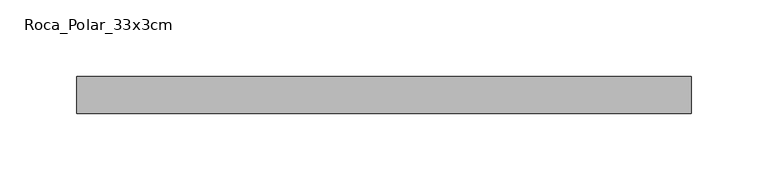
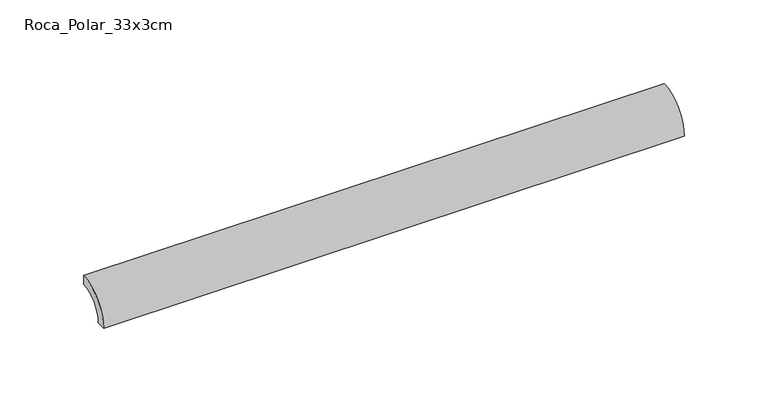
"""IFC4 building model written with IfcOpenShell, lengths in millimetres: proxy geometry, EXAGRES - Piscina Arista : Roca_Polar_33x3cm."""

from ifc_helpers import new_model, si_unit, point, frame, frame_2d, origin, place, context, project, spatial, polyline, circle_curve, trimmed, segment, composite_curve, outline, extrude, source, transform, mapped, element, save


def roca_polar_33x3cm_006be5aa(model_context):
    return source(origin(), model_context, "Body", "SweptSolid", [
        extrude(outline(composite_curve([segment(trimmed(circle_curve(frame_2d((23.9, -23.9)), 23.9), [point((0.0, -23.9))], [point((23.9, 0.0))], False, "CARTESIAN"), True, "CONTINUOUS"), segment(polyline([(23.9, 0.0), (23.9, -6.4)]), True, "CONTINUOUS"), segment(trimmed(circle_curve(frame_2d((23.9, -23.9)), 17.5), [point((23.9, -6.4))], [point((6.4, -23.9))], True, "CARTESIAN"), True, "CONTINUOUS"), segment(polyline([(6.4, -23.9), (0.0, -23.9)]), True, "CONTINUOUS")], self_intersect=False)), frame((0.0, 0.0, 0.0), z_axis=(1.0, 0.0, 0.0), x_axis=(0.0, 1.0, 0.0)), (0.0, 0.0, 1.0), 400.0),
    ])


if __name__ == "__main__":
    model = new_model("IFC4")
    model_context = context("Model", 3, world=origin())
    ifc_project = project(units=[si_unit("LENGTHUNIT", "METRE", prefix="MILLI")], contexts=[model_context])
    site = spatial("IfcSite", under=ifc_project)
    building = spatial("IfcBuilding", under=site)
    placement = place(None, origin())
    roca_polar_33x3cm_shape = roca_polar_33x3cm_006be5aa(model_context)
    element("IfcBuildingElementProxy", 1, Name="EXAGRES - Piscina Arista : Roca_Polar_33x3cm", ObjectType="EXAGRES - Piscina Arista : Roca_Polar_33x3cm", at=placement, inside=building, context=model_context, shape_type="MappedRepresentation", body=[
        mapped(roca_polar_33x3cm_shape, transform((0.0, 0.0, 0.0), x_axis=(1.0, 0.0, 0.0), y_axis=(0.0, 1.0, 0.0), z_axis=(0.0, 0.0, 1.0))),
    ])
    save(model, "model.ifc")
